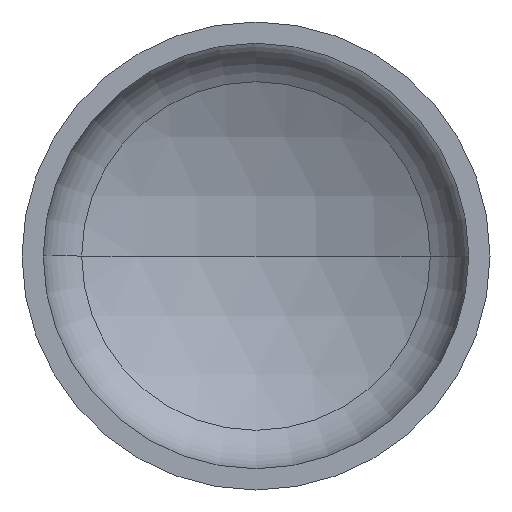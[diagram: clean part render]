
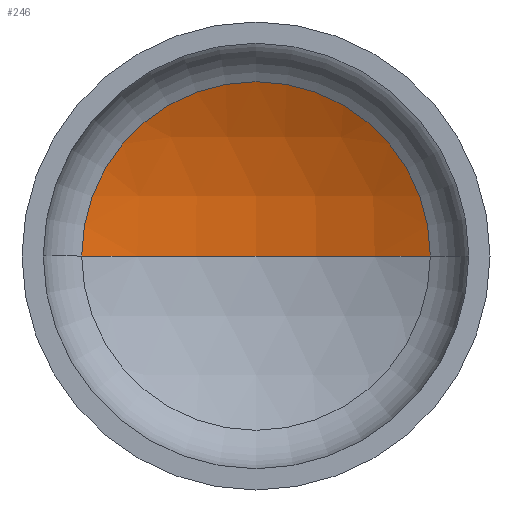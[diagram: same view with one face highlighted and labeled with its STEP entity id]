
A CAD part, front view. The second image highlights one B-rep face of the part: STEP entity #246.
In plain terms, the highlighted spherical face has radius 2080 mm.
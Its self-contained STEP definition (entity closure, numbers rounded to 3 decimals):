
#16 = ORIENTED_EDGE ( 'NONE', *, *, #179, .T. ) ;
#25 = EDGE_LOOP ( 'NONE', ( #107, #16, #96 ) ) ;
#28 = DIRECTION ( 'NONE',  ( 0., 0., -1. ) ) ;
#31 = AXIS2_PLACEMENT_3D ( 'NONE', #143, #28, #167 ) ;
#37 = VERTEX_POINT ( 'NONE', #356 ) ;
#43 = CARTESIAN_POINT ( 'NONE',  ( 0., -1411.901, 0. ) ) ;
#48 = AXIS2_PLACEMENT_3D ( 'NONE', #43, #197, #198 ) ;
#51 = AXIS2_PLACEMENT_3D ( 'NONE', #258, #196, #194 ) ;
#63 = AXIS2_PLACEMENT_3D ( 'NONE', #225, #226, #274 ) ;
#96 = ORIENTED_EDGE ( 'NONE', *, *, #168, .T. ) ;
#107 = ORIENTED_EDGE ( 'NONE', *, *, #185, .F. ) ;
#110 = VERTEX_POINT ( 'NONE', #306 ) ;
#143 = CARTESIAN_POINT ( 'NONE',  ( 0., -1411.901, 0. ) ) ;
#152 = VERTEX_POINT ( 'NONE', #312 ) ;
#153 = FACE_OUTER_BOUND ( 'NONE', #25, .T. ) ;
#167 = DIRECTION ( 'NONE',  ( -1., 0., 0. ) ) ;
#168 = EDGE_CURVE ( 'NONE', #152, #37, #352, .T. ) ;
#179 = EDGE_CURVE ( 'NONE', #110, #152, #236, .T. ) ;
#185 = EDGE_CURVE ( 'NONE', #110, #37, #283, .T. ) ;
#194 = DIRECTION ( 'NONE',  ( -1., 0., 0. ) ) ;
#196 = DIRECTION ( 'NONE',  ( 0., 0., -1. ) ) ;
#197 = DIRECTION ( 'NONE',  ( 0., 0., 1. ) ) ;
#198 = DIRECTION ( 'NONE',  ( 1., 0., 0. ) ) ;
#225 = CARTESIAN_POINT ( 'NONE',  ( 0., 429.024, 0. ) ) ;
#226 = DIRECTION ( 'NONE',  ( 0., -1., 0. ) ) ;
#236 = CIRCLE ( 'NONE', #51, 2080. ) ;
#246 = ADVANCED_FACE ( 'NONE', ( #153 ), #278, .F. ) ;
#258 = CARTESIAN_POINT ( 'NONE',  ( 0., -1411.901, 0. ) ) ;
#274 = DIRECTION ( 'NONE',  ( 1., 0., 0. ) ) ;
#278 = SPHERICAL_SURFACE ( 'NONE', #31, 2080. ) ;
#283 = CIRCLE ( 'NONE', #48, 2080. ) ;
#306 = CARTESIAN_POINT ( 'NONE',  ( 0., 668.099, 0. ) ) ;
#312 = CARTESIAN_POINT ( 'NONE',  ( 968.19, 429.024, 0. ) ) ;
#352 = CIRCLE ( 'NONE', #63, 968.19 ) ;
#356 = CARTESIAN_POINT ( 'NONE',  ( -968.19, 429.024, 0. ) ) ;
